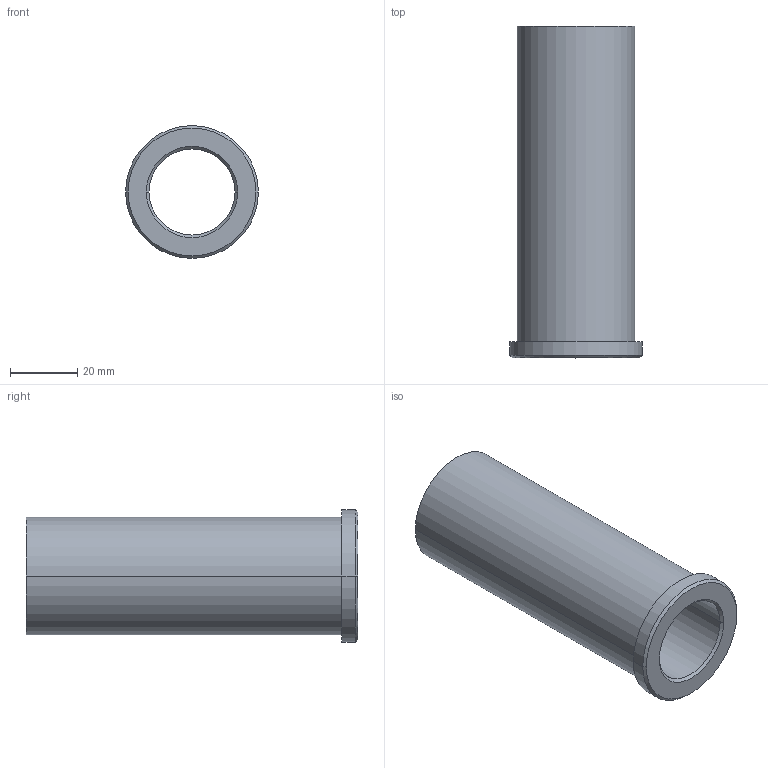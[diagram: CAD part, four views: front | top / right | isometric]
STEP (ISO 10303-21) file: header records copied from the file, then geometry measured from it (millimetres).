
FILE_DESCRIPTION (( 'STEP AP203' ), '1' );
FILE_NAME ('LBB 08-37.step', '2014-09-14T01:17:21', ( '' ), ( '' ), 'SwSTEP 2.0', 'SolidWorks 2009', '' );
FILE_SCHEMA (( 'CONFIG_CONTROL_DESIGN' ));
Length unit declared in the file: inch
Products named in the file (1): LBB 08-37
Bounding box: 39.42 x 98.42 x 39.42 mm (x, y, z)
Volume: 45133.1 mm3; surface area: 20038.4 mm2
Topology: 1 solids, 1 shells, 15 faces, 30 edges, 18 vertices
Faces by surface type: cylinder 6, cone 4, plane 3, torus 2
Entity records: 479 total; most frequent: DIRECTION 82, CARTESIAN_POINT 64, ORIENTED_EDGE 60, AXIS2_PLACEMENT_3D 36, EDGE_CURVE 30, CIRCLE 20, VERTEX_POINT 18, EDGE_LOOP 18
